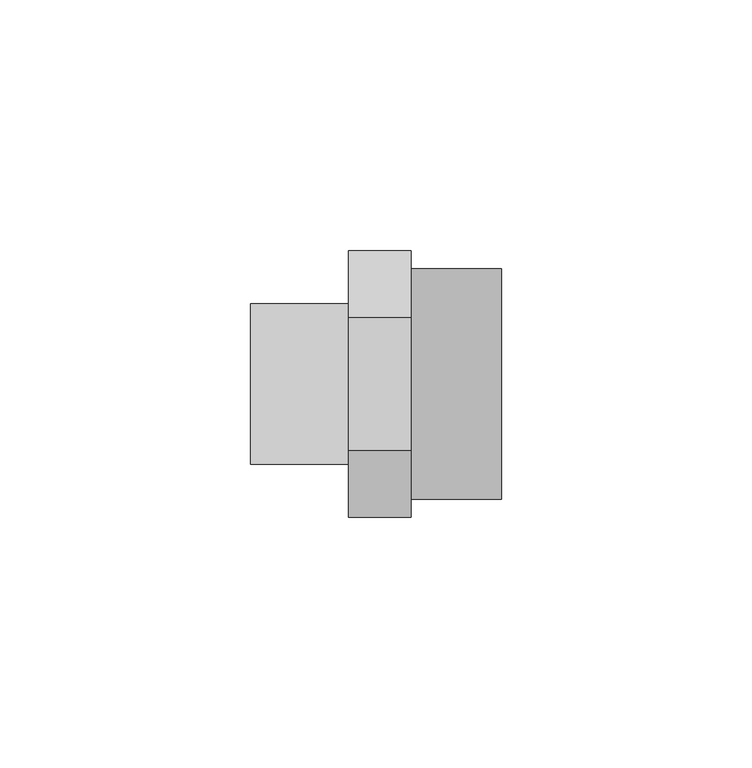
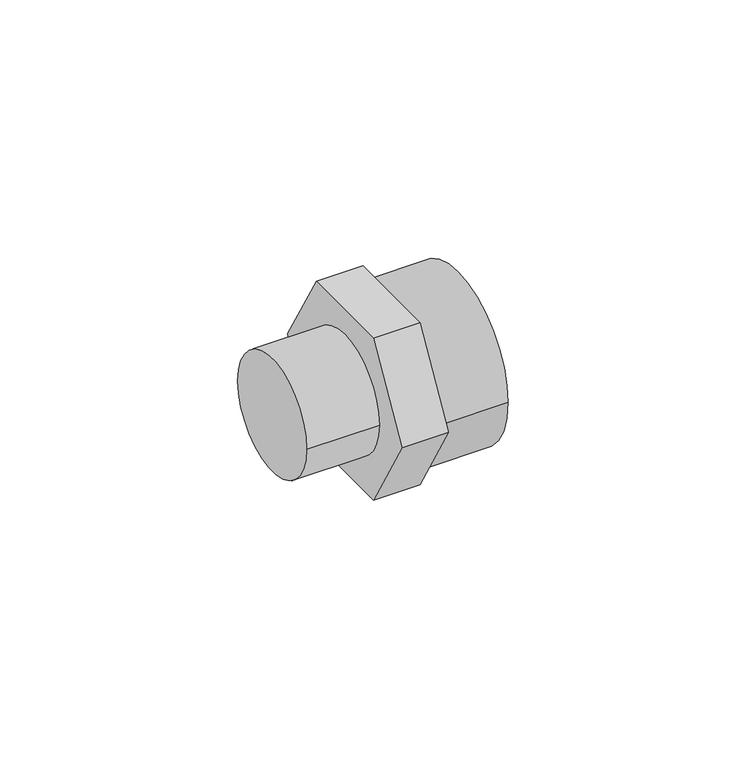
"""IFC4 building model written with IfcOpenShell, lengths in millimetres: pipe fitting geometry, 01011006 : Mamelons de réductio MxF."""

from ifc_helpers import new_model, si_unit, point, frame, origin, origin_2d, place, context, project, spatial, polyline, circle_curve, trimmed, segment, composite_curve, outline, extrude, source, transform, mapped, element, save


def pipe_fitting_265c71c8(model_context):
    return source(origin(), model_context, "Body", "SweptSolid", [
        extrude(outline(composite_curve([segment(trimmed(circle_curve(origin_2d(), 16.0), [point((16.0, 0.0))], [point((-16.0, 0.0))], False, "CARTESIAN"), True, "CONTINUOUS"), segment(trimmed(circle_curve(origin_2d(), 16.0), [point((-16.0, 0.0))], [point((16.0, 0.0))], False, "CARTESIAN"), True, "CONTINUOUS")], self_intersect=False)), frame((0.0, 0.0, 0.0), z_axis=(1.0, 0.0, 0.0), x_axis=(0.0, 1.0, 0.0)), (0.0, 0.0, 1.0), 19.5),
        extrude(outline(polyline([(-13.2790562, 23.0), (13.2790562, 23.0), (26.5581124, 0.0), (13.2790562, -23.0), (-13.2790562, -23.0), (-26.5581124, 0.0), (-13.2790562, 23.0)])), frame((19.5, 0.0, 0.0), z_axis=(1.0, 0.0, 0.0), x_axis=(0.0, 1.0, 0.0)), (0.0, 0.0, 1.0), 12.5),
        extrude(outline(composite_curve([segment(trimmed(circle_curve(origin_2d(), 23.0), [point((-23.0, 0.0))], [point((23.0, 0.0))], False, "CARTESIAN"), True, "CONTINUOUS"), segment(trimmed(circle_curve(origin_2d(), 23.0), [point((23.0, 0.0))], [point((-23.0, 0.0))], False, "CARTESIAN"), True, "CONTINUOUS")], self_intersect=False)), frame((32.0, 0.0, 0.0), z_axis=(1.0, 0.0, 0.0), x_axis=(0.0, 1.0, 0.0)), (0.0, 0.0, 1.0), 18.0),
    ])


if __name__ == "__main__":
    model = new_model("IFC4")
    model_context = context("Model", 3, world=origin())
    ifc_project = project(units=[si_unit("LENGTHUNIT", "METRE", prefix="MILLI")], contexts=[model_context])
    site = spatial("IfcSite", under=ifc_project)
    building = spatial("IfcBuilding", under=site)
    placement = place(None, origin())
    pipe_fitting_shape = pipe_fitting_265c71c8(model_context)
    element("IfcPipeFitting", 1, ObjectType="01011006 : Mamelons de réductio MxF", at=placement, inside=building, context=model_context, shape_type="MappedRepresentation", body=[
        mapped(pipe_fitting_shape, transform((0.0, 0.0, 0.0), x_axis=(1.0, 0.0, 0.0), y_axis=(0.0, 1.0, 0.0), z_axis=(0.0, 0.0, 1.0))),
    ])
    save(model, "model.ifc")
